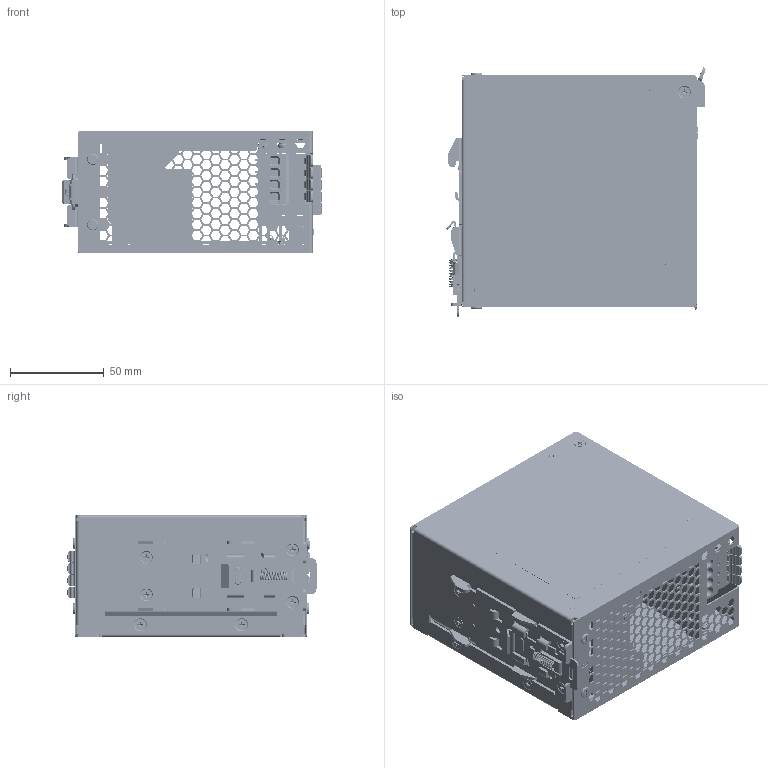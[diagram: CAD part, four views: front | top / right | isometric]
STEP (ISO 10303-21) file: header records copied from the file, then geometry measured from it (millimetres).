
FILE_DESCRIPTION((''),'2;1');
FILE_NAME('DRF-24V480W3GTA_ASM','2023-02-21T',('Nut.Phor'),(''),'CREO PARAMETRIC BY PTC INC, 2015080','CREO PARAMETRIC BY PTC INC, 2015080','');
FILE_SCHEMA(('CONFIG_CONTROL_DESIGN'));
Products named in the file (98): 337555910000_55_1; 337555910000_55_2; 337555910000_55_3; 337555910000_55_ASM; 337555910000-STUD_6-32_3MM_27; 337555910000-STUD_6-32_NORMAL_2; 337555910000_ASM_139_ASM; 3240030TPS01_75_1; 3240030TPS01_75_2; 3240030TPS01_75_3; 3240030TPS01_75_ASM; ADC-127_168; ADC-180_HSK2MM_200; 334821140000_BODY_532; 334821140000_A_C098_CIM_14; 334821140000_ASM_215_ASM; HSK1_2MM_ASM_930_ASM; 31052637XX_1; ADC-128_240; LAYOUT_ADC-179_348; 3467587200_BUS_SPCC_24; 3074842534_A2003WR0-1AGX4PA-6T_; 3074843834_A2003WR0-1AGX2PA-6T_; MSBR-16_1_2_1; MSBR-15_1_2_1; MSBR-14_1_2_1; MSBR-13_1_2_1; MSBR-12_1_2_1; MSBR-11_1_2_1; MSBR-10_1_2_AF0_1; MSBR-9_1_2_AF0_1; MSBR-8_1_2_AF0_1; MSBR-7_1_2_1; MSBR-6_1_2_1; MSBR-5_1_2_1; MSBR-3_1_2_AF0_1; MSBR-2_1_2_AF0_1; MSBR-1_1_2_AF0_1; MSBR-2_1_2_AF1_1; MSBR-8_1_2_AF1_1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
Assembly tree (135 placements, depth 7):
  DRF-24V480W3GTA_ASM
    337555910000_ASM_139_ASM
      337555910000_55_ASM
        337555910000_55_1
        337555910000_55_2
        337555910000_55_3
      337555910000-STUD_6-32_3MM_27  x2
      337555910000-STUD_6-32_NORMAL_2
    3240030TPS01_75_ASM
      3240030TPS01_75_1
      3240030TPS01_75_2
      3240030TPS01_75_3
    ASSY_ADC-180_ASM_3354_ASM
      ADC-127_168
      ADC-180_HSK2MM_200
      HSK1_2MM_ASM_930_ASM
        334821140000_ASM_215_ASM
          334821140000_BODY_532
          334821140000_A_C098_CIM_14
      31052637XX_1
      ASSY-ADC-179_ASM_3135_ASM
        ADC-128_240
        LAYOUT_ADC-179_348
        3467587200_BUS_SPCC_24
        3074842534_A2003WR0-1AGX4PA-6T_
        3074843834_A2003WR0-1AGX2PA-6T_  x3
        307036791G_4PIN_ASM_14_ASM
          MSBR-16_1_2_1
          MSBR-15_1_2_1  x2
          MSBR-14_1_2_1
          MSBR-13_1_2_1
          MSBR-12_1_2_1  x2
          MSBR-11_1_2_1
          MSBR-10_1_2_AF0_1
          MSBR-9_1_2_AF0_1
          MSBR-8_1_2_AF0_1
          MSBR-7_1_2_1
          MSBR-6_1_2_1  x2
          MSBR-5_1_2_1
          MSBR-3_1_2_AF0_1
          MSBR-2_1_2_AF0_1
          MSBR-1_1_2_AF0_1
          MSBR-2_1_2_AF1_1
          MSBR-8_1_2_AF1_1
          MSBR-4_1_2_AF0_1
      ASSY_ADC-188_ASM_644_ASM
        ADC-131_13
        LAYOUT_ADC-188_97
        307195156G_CN62_ASM_122_ASM
          307195156G_A1_12
          307195156G_A2_AF0_23
        3460375301-V3_1
        3470422400_1  x2
        3240027TPS00_59
        3074842634_A2003WR0-1AGX6PA-6T_
        CH81082HA86-NH-20211222_ASM_NEW_ASM
          CH81082HA86-NH-20211222_ASM_AF0_ASM
            CH81082HA86-NH-20211222_ANY_AF0_ASM
              CH81-TH2_86__ANY_1_1  x4
              CH81-TH1_86__ANY_1_1  x3
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Bounding box: 138.49 x 132.95 x 65.05 mm (x, y, z)
Topology: 134 solids, 144 shells, 18845 faces, 50916 edges, 32872 vertices
Faces by surface type: plane 11039, cylinder 4642, cone 952, bspline 768, extrusion 768, torus 660, sphere 16
Entity records: 536084 total; most frequent: CARTESIAN_POINT 121999, ORIENTED_EDGE 68368, DIRECTION 62440, EDGE_CURVE 34184, VECTOR 25494, LINE 24739, PRESENTATION_STYLE_ASSIGNMENT 24299, VERTEX_POINT 22349
